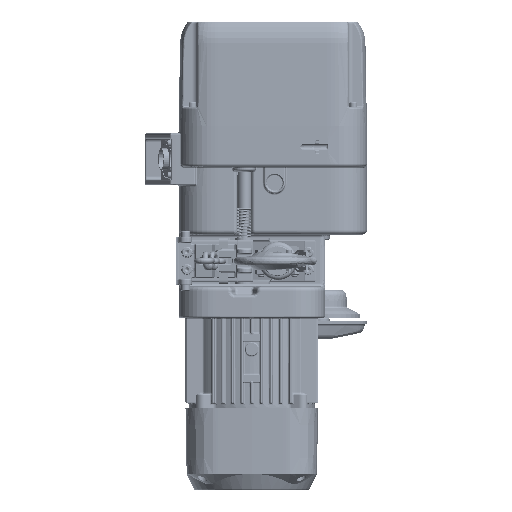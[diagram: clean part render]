
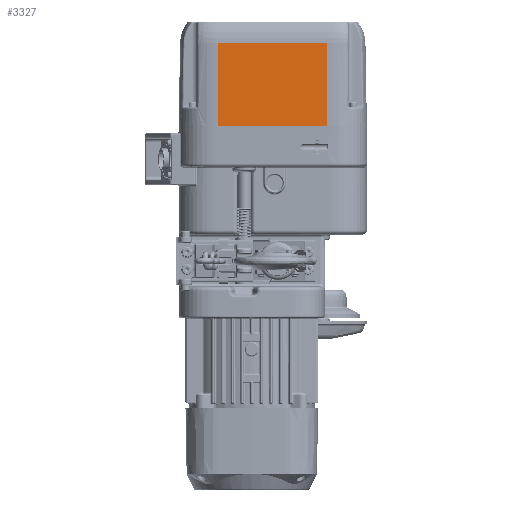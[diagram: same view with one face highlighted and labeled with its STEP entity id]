
A CAD part, front view. The second image highlights one B-rep face of the part: STEP entity #3327.
In plain terms, the highlighted planar face has unit normal (0, -1, 0.018).
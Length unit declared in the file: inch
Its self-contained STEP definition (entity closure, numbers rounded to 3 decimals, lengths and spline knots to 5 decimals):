
#3327 = ADVANCED_FACE ( 'NONE', ( #162493 ), #112202, .T. ) ;
#6516 = VERTEX_POINT ( 'NONE', #199652 ) ;
#6916 = VERTEX_POINT ( 'NONE', #150222 ) ;
#9814 = DIRECTION ( 'NONE',  ( 0., -0.017, -1. ) ) ;
#12516 = DIRECTION ( 'NONE',  ( 0., -1., 0.017 ) ) ;
#12938 = VECTOR ( 'NONE', #115939, 39.37008 ) ;
#15139 = AXIS2_PLACEMENT_3D ( 'NONE', #198542, #12516, #80363 ) ;
#31434 = ORIENTED_EDGE ( 'NONE', *, *, #172990, .F. ) ;
#31808 = VERTEX_POINT ( 'NONE', #150194 ) ;
#33120 = ORIENTED_EDGE ( 'NONE', *, *, #182262, .F. ) ;
#46705 = CARTESIAN_POINT ( 'NONE',  ( 0., -4.15354, 0. ) ) ;
#47125 = VECTOR ( 'NONE', #9814, 39.37008 ) ;
#47779 = ORIENTED_EDGE ( 'NONE', *, *, #201231, .T. ) ;
#47783 = LINE ( 'NONE', #46705, #89724 ) ;
#71562 = LINE ( 'NONE', #124131, #168669 ) ;
#80363 = DIRECTION ( 'NONE',  ( 0., -0.017, -1. ) ) ;
#89724 = VECTOR ( 'NONE', #196681, 39.37008 ) ;
#93040 = LINE ( 'NONE', #108432, #47125 ) ;
#108115 = VERTEX_POINT ( 'NONE', #113262 ) ;
#108432 = CARTESIAN_POINT ( 'NONE',  ( -2.8108, -4.15354, 0. ) ) ;
#112202 = PLANE ( 'NONE',  #15139 ) ;
#113262 = CARTESIAN_POINT ( 'NONE',  ( -2.8108, -4.15354, 0. ) ) ;
#115939 = DIRECTION ( 'NONE',  ( 0., -0.017, -1. ) ) ;
#124131 = CARTESIAN_POINT ( 'NONE',  ( 2.8108, -4.07838, 4.30633 ) ) ;
#125672 = ORIENTED_EDGE ( 'NONE', *, *, #171457, .T. ) ;
#128448 = EDGE_LOOP ( 'NONE', ( #47779, #125672, #33120, #31434 ) ) ;
#147698 = CARTESIAN_POINT ( 'NONE',  ( 2.8108, -4.15354, 0. ) ) ;
#150194 = CARTESIAN_POINT ( 'NONE',  ( 2.8108, -4.07838, 4.30633 ) ) ;
#150222 = CARTESIAN_POINT ( 'NONE',  ( -2.8108, -4.07838, 4.30633 ) ) ;
#162493 = FACE_OUTER_BOUND ( 'NONE', #128448, .T. ) ;
#168669 = VECTOR ( 'NONE', #188689, 39.37008 ) ;
#171457 = EDGE_CURVE ( 'NONE', #6916, #108115, #93040, .T. ) ;
#172990 = EDGE_CURVE ( 'NONE', #31808, #6516, #181570, .T. ) ;
#181570 = LINE ( 'NONE', #147698, #12938 ) ;
#182262 = EDGE_CURVE ( 'NONE', #6516, #108115, #47783, .T. ) ;
#188689 = DIRECTION ( 'NONE',  ( -1., 0., 0. ) ) ;
#196681 = DIRECTION ( 'NONE',  ( -1., 0., 0. ) ) ;
#198542 = CARTESIAN_POINT ( 'NONE',  ( 0., -4.15354, 0. ) ) ;
#199652 = CARTESIAN_POINT ( 'NONE',  ( 2.8108, -4.15354, 0. ) ) ;
#201231 = EDGE_CURVE ( 'NONE', #31808, #6916, #71562, .T. ) ;
